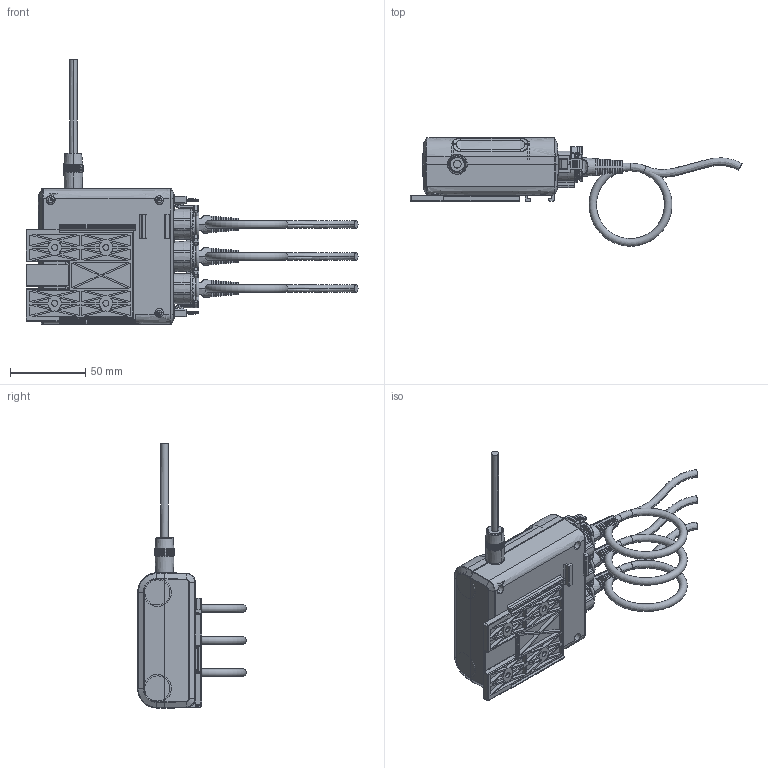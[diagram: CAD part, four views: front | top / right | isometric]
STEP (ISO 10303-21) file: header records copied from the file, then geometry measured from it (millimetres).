
FILE_DESCRIPTION((''),'2;1');
FILE_NAME('1','2014-06-05T',('tony'),(''),'PRO/ENGINEER BY PARAMETRIC TECHNOLOGY CORPORATION, 2008090','PRO/ENGINEER BY PARAMETRIC TECHNOLOGY CORPORATION, 2008090','');
FILE_SCHEMA(('CONFIG_CONTROL_DESIGN'));
Products named in the file (1): 1
Bounding box: 220.07 x 71.84 x 175.46 mm (x, y, z)
Surface area: 129625.8 mm2 (no closed solid volume)
Topology: 0 solids, 0 shells, 2460 faces, 12874 edges, 12716 vertices
Faces by surface type: bspline 2279, torus 159, sphere 22
Entity records: 211682 total; most frequent: CARTESIAN_POINT 101126, DIRECTION 16777, TRIMMED_CURVE 14683, VECTOR 12951, LINE 12951, DEFINITIONAL_REPRESENTATION 12580, PCURVE 12580, COMPOSITE_CURVE_SEGMENT 12580
